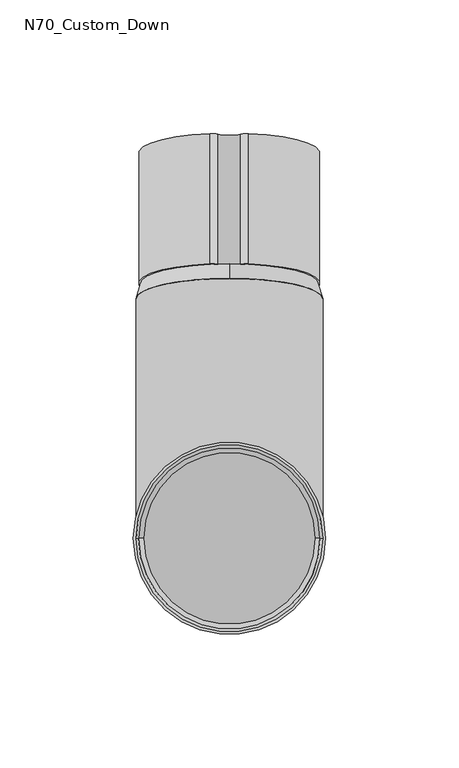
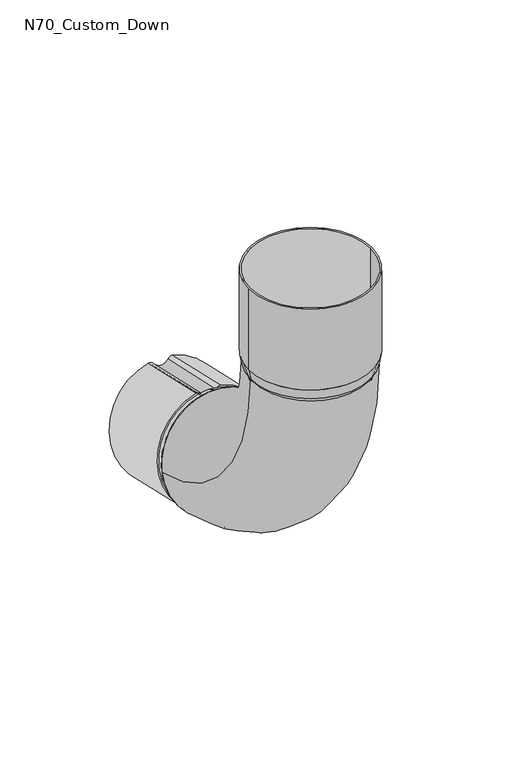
"""IFC4 building model written with IfcOpenShell, lengths in millimetres: proxy geometry, GROVIK_Downpipe_Elbow : N70_Custom_Down."""

from ifc_helpers import new_model, si_unit, point, frame, frame_2d, origin, origin_with_axes, origin_2d, place, context, project, spatial, polyline, circle_curve, ellipse_curve, trimmed, segment, composite_curve, outline, extrude, source, transform, mapped, element, save
from ifc_brep_helpers import plane_surface, revolved_surface, advanced_brep


def n70_custom_down_fca05299(model_context):
    return source(origin(), model_context, "Body", "SolidModel", [
        extrude(outline(composite_curve([segment(trimmed(circle_curve(origin_2d(), 34.0), [point((-7.2, -33.2289031))], [point((-7.2, 33.2289031))], False, "CARTESIAN"), True, "CONTINUOUS"), segment(trimmed(circle_curve(frame_2d((-6.6504209, 30.1934465)), 3.0848069), [point((-7.2, 33.2289031))], [point((-4.2037022, 32.0721698))], False, "CARTESIAN"), True, "CONTINUOUS"), segment(trimmed(circle_curve(frame_2d((0.0, 35.3)), 5.3), [point((-4.2037022, 32.0721698))], [point((4.2058428, 32.0749594))], True, "CARTESIAN"), True, "CONTINUOUS"), segment(trimmed(circle_curve(frame_2d((6.6465812, 30.203401)), 3.0757007), [point((4.2058428, 32.0749594))], [point((7.2, 33.2289031))], False, "CARTESIAN"), True, "CONTINUOUS"), segment(trimmed(circle_curve(origin_2d(), 34.0), [point((7.2, 33.2289031))], [point((7.2, -33.2289031))], False, "CARTESIAN"), True, "CONTINUOUS"), segment(trimmed(circle_curve(frame_2d((6.6465812, -30.203401)), 3.0757007), [point((7.2, -33.2289031))], [point((4.2058428, -32.0749595))], False, "CARTESIAN"), True, "CONTINUOUS"), segment(trimmed(circle_curve(frame_2d((0.0, -35.3)), 5.3), [point((4.2058428, -32.0749595))], [point((-4.2037022, -32.0721697))], True, "CARTESIAN"), True, "CONTINUOUS"), segment(trimmed(circle_curve(frame_2d((-6.6504209, -30.1934466)), 3.0848069), [point((-4.2037022, -32.0721697))], [point((-7.2, -33.2289031))], False, "CARTESIAN"), True, "CONTINUOUS")], self_intersect=False), holes=[composite_curve([segment(trimmed(circle_curve(frame_2d((-6.6504209, -30.1934466)), 2.0848069), [point((-7.1903364, -32.2071275))], [point((-4.9968535, -31.4631452))], True, "CARTESIAN"), True, "CONTINUOUS"), segment(trimmed(circle_curve(frame_2d((0.0, -35.3)), 6.3), [point((-4.9968535, -31.4631452))], [point((4.999398, -31.4664613))], False, "CARTESIAN"), True, "CONTINUOUS"), segment(trimmed(circle_curve(frame_2d((6.6465812, -30.203401)), 2.0757007), [point((4.999398, -31.4664613))], [point((7.1790209, -32.2096517))], True, "CARTESIAN"), True, "CONTINUOUS"), segment(trimmed(circle_curve(origin_2d(), 33.0), [point((7.1790209, -32.2096517))], [point((7.1790209, 32.2096516))], True, "CARTESIAN"), True, "CONTINUOUS"), segment(trimmed(circle_curve(frame_2d((6.6465812, 30.203401)), 2.0757007), [point((7.1790209, 32.2096516))], [point((4.999398, 31.4664612))], True, "CARTESIAN"), True, "CONTINUOUS"), segment(trimmed(circle_curve(frame_2d((0.0, 35.3)), 6.3), [point((4.999398, 31.4664612))], [point((-4.9968535, 31.4631451))], False, "CARTESIAN"), True, "CONTINUOUS"), segment(trimmed(circle_curve(frame_2d((-6.6504209, 30.1934465)), 2.0848069), [point((-4.9968535, 31.4631451))], [point((-7.1903364, 32.2071274))], True, "CARTESIAN"), True, "CONTINUOUS"), segment(trimmed(circle_curve(origin_2d(), 33.0), [point((-7.1903364, 32.2071274))], [point((-7.1903364, -32.2071275))], True, "CARTESIAN"), True, "CONTINUOUS")], self_intersect=False)]), frame((0.0, 144.3258915, -124.5029802), z_axis=(0.0, -0.975496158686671, 0.22001646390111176), x_axis=(1.0, 0.0, 0.0)), (0.0, 0.0, 1.0), 50.0),
        extrude(outline(composite_curve([segment(trimmed(circle_curve(origin_2d(), 36.0), [point((-36.0, 0.0))], [point((36.0, 0.0))], False, "CARTESIAN"), True, "CONTINUOUS"), segment(trimmed(circle_curve(origin_2d(), 36.0), [point((36.0, 0.0))], [point((-36.0, 0.0))], False, "CARTESIAN"), True, "CONTINUOUS")], self_intersect=False), holes=[composite_curve([segment(trimmed(circle_curve(origin_2d(), 35.0), [point((-35.0, 0.0))], [point((35.0, 0.0))], True, "CARTESIAN"), True, "CONTINUOUS"), segment(trimmed(circle_curve(origin_2d(), 35.0), [point((35.0, 0.0))], [point((-35.0, 0.0))], True, "CARTESIAN"), True, "CONTINUOUS")], self_intersect=False)]), frame((0.0, 0.0, 6.0), z_axis=(0.0, 0.0, 1.0), x_axis=(1.0, 0.0, 0.0)), (0.0, 0.0, 1.0), 50.0),
        advanced_brep(
        [(-35.0, 0.0, 0.0), (35.0, 0.0, 0.0), (34.0, 0.0, 0.0), (-34.0, 0.0, 0.0), (-36.0, 0.0, 6.0), (36.0, 0.0, 6.0), (-35.0, 0.0, 6.0), (35.0, 0.0, 6.0)],
        [
            (0, 1, circle_curve(frame((0.0, 0.0, 0.0), z_axis=(0.0, 0.0, -1.0), x_axis=(-1.0, 0.0, 0.0)), 35.0)),
            (1, 0, circle_curve(frame((0.0, 0.0, 0.0), z_axis=(0.0, 0.0, -1.0), x_axis=(1.0, 0.0, 0.0)), 35.0)),
            (2, 3, circle_curve(frame((0.0, 0.0, 0.0), z_axis=(0.0, 0.0, 1.0), x_axis=(-1.0, 0.0, 0.0)), 34.0)),
            (3, 2, circle_curve(origin_with_axes(), 34.0)),
            (4, 5, circle_curve(frame((0.0, 0.0, 6.0), z_axis=(0.0, 0.0, 1.0), x_axis=(1.0, 0.0, 0.0)), 36.0)),
            (5, 4, circle_curve(frame((0.0, 0.0, 6.0), z_axis=(0.0, 0.0, 1.0), x_axis=(-1.0, 0.0, 0.0)), 36.0)),
            (6, 7, circle_curve(frame((0.0, 0.0, 6.0), z_axis=(0.0, 0.0, -1.0), x_axis=(-1.0, 0.0, 0.0)), 35.0)),
            (7, 6, circle_curve(frame((0.0, 0.0, 6.0), z_axis=(0.0, 0.0, -1.0), x_axis=(1.0, 0.0, 0.0)), 35.0)),
            (0, 4),
            (5, 1),
            (6, 3),
            (2, 7),
        ],
        [
            plane_surface(frame((0.0, 0.0, 0.0), z_axis=(0.0, 0.0, -1.0), x_axis=(0.0, 1.0, 0.0))),
            plane_surface(frame((0.0, 0.0, 6.0), z_axis=(0.0, 0.0, 1.0), x_axis=(0.0, 1.0, 0.0))),
            revolved_surface(polyline([(-35.0, 0.0, 0.0), (-36.0, 0.0, 6.0)]), (0.0, 0.0, -210.0), (0.0, 0.0, 1.0)),
            revolved_surface(polyline([(35.0, 0.0, 0.0), (36.0, 0.0, 6.0)]), (0.0, 0.0, -210.0), (0.0, 0.0, 1.0)),
            revolved_surface(polyline([(-35.0, 0.0, 6.0), (-34.0, 0.0, 0.0)]), (0.0, 0.0, -204.0), (0.0, 0.0, 1.0)),
        ],
        [
            (0, [[1, 2], [3, 4]]),
            (1, [[5, 6], [7, 8]]),
            (2, [[-1, 9, -6, 10]]),
            (3, [[-2, -10, -5, -9]]),
            (4, [[11, -3, 12, -7]]),
            (4, [[-11, -8, -12, -4]]),
        ],
    ),
        advanced_brep(
        [(0.0, 88.246537, -145.8886295), (0.0, 102.8556302, -81.1156846), (0.0, 102.6356137, -82.0911807), (0.0, 88.4665535, -144.9131333), (0.0, 81.9975304, -146.3244238), (0.0, 97.3986829, -78.0396927), (0.0, 82.2175469, -145.3489276), (0.0, 97.1786664, -79.0151889)],
        [
            (0, 1, circle_curve(frame((0.0, 95.5510836, -113.502157), z_axis=(0.0, 0.9754961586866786, -0.22001646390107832), x_axis=(0.0, -0.2200164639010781, -0.9754961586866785)), 33.2)),
            (1, 0, circle_curve(frame((0.0, 95.5510836, -113.502157), z_axis=(0.0, 0.9754961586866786, -0.22001646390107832), x_axis=(0.0, 0.2200164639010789, 0.9754961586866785)), 33.2)),
            (2, 3, circle_curve(frame((0.0, 95.5510836, -113.502157), z_axis=(0.0, -0.9754961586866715, 0.22001646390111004), x_axis=(0.0, -0.22001646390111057, -0.9754961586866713)), 32.2)),
            (3, 2, circle_curve(frame((0.0, 95.5510836, -113.502157), z_axis=(0.0, -0.9754961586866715, 0.22001646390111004), x_axis=(0.0, 0.220016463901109, 0.9754961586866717)), 32.2)),
            (4, 5, circle_curve(frame((0.0, 89.6981067, -112.1820582), z_axis=(0.0, -0.9754961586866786, 0.22001646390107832), x_axis=(0.0, 0.2200164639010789, 0.9754961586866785)), 35.0)),
            (5, 4, circle_curve(frame((0.0, 89.6981067, -112.1820582), z_axis=(0.0, -0.9754961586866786, 0.22001646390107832), x_axis=(0.0, -0.2200164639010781, -0.9754961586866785)), 35.0)),
            (6, 7, circle_curve(frame((0.0, 89.6981067, -112.1820582), z_axis=(0.0, 0.9754961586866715, -0.22001646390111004), x_axis=(0.0, -0.22001646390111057, -0.9754961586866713)), 34.0)),
            (7, 6, circle_curve(frame((0.0, 89.6981067, -112.1820582), z_axis=(0.0, 0.9754961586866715, -0.22001646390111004), x_axis=(0.0, 0.220016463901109, 0.9754961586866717)), 34.0)),
            (0, 4),
            (5, 1),
            (6, 3),
            (2, 7),
        ],
        [
            plane_surface(frame((0.0, 95.5510836, -113.502157), z_axis=(0.0, 0.9754961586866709, -0.22001646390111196), x_axis=(-1.0, 0.0, 0.0))),
            plane_surface(frame((0.0, 89.6981067, -112.1820582), z_axis=(0.0, -0.9754961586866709, 0.2200164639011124), x_axis=(-1.0, 0.0, 0.0))),
            revolved_surface(polyline([(0.0, 88.24653700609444, -145.88862949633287), (0.0, 81.9975304, -146.3244238)]), (0.0, 203.5059918, -137.8506457), (0.0, -0.9754961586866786, 0.22001646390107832)),
            revolved_surface(polyline([(0.0, 102.85563020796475, -81.1156845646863), (0.0, 97.39868287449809, -78.039692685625)]), (0.0, 203.5059918, -137.8506457), (0.0, -0.9754961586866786, 0.22001646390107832)),
            revolved_surface(polyline([(0.0, 82.2175468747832, -145.34892760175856), (0.0, 88.46655350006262, -144.9131332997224)]), (0.0, 200.254338, -137.1172575), (0.0, -0.9754961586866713, 0.22001646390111)),
        ],
        [
            (0, [[1, 2], [3, 4]]),
            (1, [[5, 6], [7, 8]]),
            (2, [[-1, 9, -6, 10]]),
            (3, [[-2, -10, -5, -9]]),
            (4, [[11, -3, 12, -7]]),
            (4, [[-11, -8, -12, -4]]),
        ],
    ),
        advanced_brep(
        [(-33.2, 0.0, -6.0), (33.2, 0.0, -6.0), (-32.2, 0.0, -6.0), (32.2, 0.0, -6.0), (-35.0, 0.0, 0.0), (35.0, 0.0, 0.0), (34.0, 0.0, 0.0), (-34.0, 0.0, 0.0)],
        [
            (0, 1, circle_curve(frame((0.0, 0.0, -6.0), z_axis=(0.0, 0.0, -1.0), x_axis=(-1.0, 0.0, 0.0)), 33.2)),
            (1, 0, circle_curve(frame((0.0, 0.0, -6.0), z_axis=(0.0, 0.0, -1.0), x_axis=(1.0, 0.0, 0.0)), 33.2)),
            (2, 3, circle_curve(frame((0.0, 0.0, -6.0), z_axis=(0.0, 0.0, 1.0), x_axis=(1.0, 0.0, 0.0)), 32.2)),
            (3, 2, circle_curve(frame((0.0, 0.0, -6.0), z_axis=(0.0, 0.0, 1.0), x_axis=(-1.0, 0.0, 0.0)), 32.2)),
            (4, 5, circle_curve(origin_with_axes(), 35.0)),
            (5, 4, circle_curve(frame((0.0, 0.0, 0.0), z_axis=(0.0, 0.0, 1.0), x_axis=(-1.0, 0.0, 0.0)), 35.0)),
            (6, 7, circle_curve(frame((0.0, 0.0, 0.0), z_axis=(0.0, 0.0, -1.0), x_axis=(1.0, 0.0, 0.0)), 34.0)),
            (7, 6, circle_curve(frame((0.0, 0.0, 0.0), z_axis=(0.0, 0.0, -1.0), x_axis=(-1.0, 0.0, 0.0)), 34.0)),
            (1, 5),
            (4, 0),
            (6, 3),
            (2, 7),
        ],
        [
            plane_surface(frame((0.0, 0.0, -6.0), z_axis=(0.0, 0.0, -1.0), x_axis=(0.0, 1.0, 0.0))),
            plane_surface(frame((0.0, 0.0, 0.0), z_axis=(0.0, 0.0, 1.0), x_axis=(0.0, 1.0, 0.0))),
            revolved_surface(polyline([(33.20000000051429, 0.0, -6.0), (35.0, 0.0, 0.0)]), (0.0, 0.0, -116.6666667), (0.0, 0.0, 1.0)),
            revolved_surface(polyline([(-33.20000000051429, 0.0, -6.0), (-35.0, 0.0, 0.0)]), (0.0, 0.0, -116.6666667), (0.0, 0.0, 1.0)),
            revolved_surface(polyline([(34.0, 0.0, 0.0), (32.19999999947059, 0.0, -6.0)]), (0.0, 0.0, -113.3333333), (0.0, 0.0, 1.0)),
        ],
        [
            (0, [[1, 2], [3, 4]]),
            (1, [[5, 6], [7, 8]]),
            (2, [[-2, 9, -5, 10]]),
            (3, [[-1, -10, -6, -9]]),
            (4, [[11, -3, 12, -7]]),
            (4, [[-11, -8, -12, -4]]),
        ],
    ),
        advanced_brep(
        [(-35.0, 0.0, 0.0), (35.0, 0.0, 0.0), (-34.0, 0.0, 0.0), (34.0, 0.0, 0.0), (-35.0, 89.6981067, -112.1820582), (35.0, 89.6981067, -112.1820582), (-34.0, 89.6981067, -112.1820582), (34.0, 89.6981067, -112.1820582)],
        [
            (0, 1, circle_curve(origin_with_axes(), 35.0)),
            (1, 0, circle_curve(origin_with_axes(), 35.0)),
            (2, 3, circle_curve(frame((0.0, 0.0, 0.0), z_axis=(0.0, 0.0, -1.0), x_axis=(1.0, 0.0, 0.0)), 34.0)),
            (3, 2, circle_curve(frame((0.0, 0.0, 0.0), z_axis=(0.0, 0.0, -1.0), x_axis=(1.0, 0.0, 0.0)), 34.0)),
            (4, 5, circle_curve(frame((0.0, 89.6981067, -112.1820582), z_axis=(0.0, 0.9754961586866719, -0.22001646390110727), x_axis=(1.0, 0.0, 0.0)), 35.0)),
            (5, 4, circle_curve(frame((0.0, 89.6981067, -112.1820582), z_axis=(0.0, 0.9754961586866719, -0.22001646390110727), x_axis=(1.0, 0.0, 0.0)), 35.0)),
            (6, 7, circle_curve(frame((0.0, 89.6981067, -112.1820582), z_axis=(0.0, -0.9754961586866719, 0.22001646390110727), x_axis=(1.0, 0.0, 0.0)), 34.0)),
            (7, 6, circle_curve(frame((0.0, 89.6981067, -112.1820582), z_axis=(0.0, -0.9754961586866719, 0.22001646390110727), x_axis=(1.0, 0.0, 0.0)), 34.0)),
            (7, 3, circle_curve(frame((34.0, 115.0, 0.0), z_axis=(-1.0, 0.0, 0.0), x_axis=(0.0, -1.0, 0.0)), 115.0)),
            (2, 6, circle_curve(frame((-34.0, 115.0, 0.0), z_axis=(1.0, 0.0, 0.0), x_axis=(0.0, -1.0, 0.0)), 115.0)),
            (5, 1, circle_curve(frame((35.0, 115.0, 0.0), z_axis=(-1.0, 0.0, 0.0), x_axis=(0.0, -1.0, 0.0)), 115.0)),
            (0, 4, circle_curve(frame((-35.0, 115.0, 0.0), z_axis=(1.0, 0.0, 0.0), x_axis=(0.0, -1.0, 0.0)), 115.0)),
        ],
        [
            plane_surface(origin_with_axes()),
            plane_surface(frame((0.0, 89.6981067, -112.1820582), z_axis=(0.0, 0.975496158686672, -0.22001646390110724), x_axis=(1.0, 0.0, 0.0))),
            revolved_surface(trimmed(ellipse_curve(frame((0.0, 0.0, 0.0), z_axis=(0.0, 0.0, -1.0), x_axis=(1.0, 0.0, 0.0)), 34.0, 34.0), [point((-34.0, 0.0, 0.0))], [point((34.0, 0.0, 0.0))], True, "CARTESIAN"), (0.0, 115.0, 0.0), (1.0, 0.0, 0.0)),
            revolved_surface(trimmed(ellipse_curve(frame((0.0, 0.0, 0.0), z_axis=(0.0, 0.0, -1.0), x_axis=(1.0, 0.0, 0.0)), 34.0, 34.0), [point((34.0, 0.0, 0.0))], [point((-34.0, 0.0, 0.0))], True, "CARTESIAN"), (0.0, 115.0, 0.0), (1.0, 0.0, 0.0)),
            revolved_surface(trimmed(ellipse_curve(origin_with_axes(), 35.0, 35.0), [point((-35.0, 0.0, 0.0))], [point((35.0, 0.0, 0.0))], True, "CARTESIAN"), (0.0, 115.0, 0.0), (1.0, 0.0, 0.0)),
            revolved_surface(trimmed(ellipse_curve(origin_with_axes(), 35.0, 35.0), [point((35.0, 0.0, 0.0))], [point((-35.0, 0.0, 0.0))], True, "CARTESIAN"), (0.0, 115.0, 0.0), (1.0, 0.0, 0.0)),
        ],
        [
            (0, [[1, 2], [3, 4]]),
            (1, [[5, 6], [7, 8]]),
            (2, [[9, -3, 10, -8]]),
            (3, [[-10, -4, -9, -7]]),
            (4, [[11, -1, 12, -6]]),
            (5, [[-12, -2, -11, -5]]),
        ],
    ),
    ])


if __name__ == "__main__":
    model = new_model("IFC4")
    model_context = context("Model", 3, world=origin())
    ifc_project = project(units=[si_unit("LENGTHUNIT", "METRE", prefix="MILLI")], contexts=[model_context])
    site = spatial("IfcSite", under=ifc_project)
    building = spatial("IfcBuilding", under=site)
    placement = place(None, origin())
    n70_custom_down_shape = n70_custom_down_fca05299(model_context)
    element("IfcBuildingElementProxy", 1, Name="GROVIK_Downpipe_Elbow : N70_Custom_Down", ObjectType="GROVIK_Downpipe_Elbow : N70_Custom_Down", at=placement, inside=building, context=model_context, shape_type="MappedRepresentation", body=[
        mapped(n70_custom_down_shape, transform((0.0, 0.0, 0.0), x_axis=(1.0, 0.0, 0.0), y_axis=(0.0, 1.0, 0.0), z_axis=(0.0, 0.0, 1.0))),
    ])
    save(model, "model.ifc")
